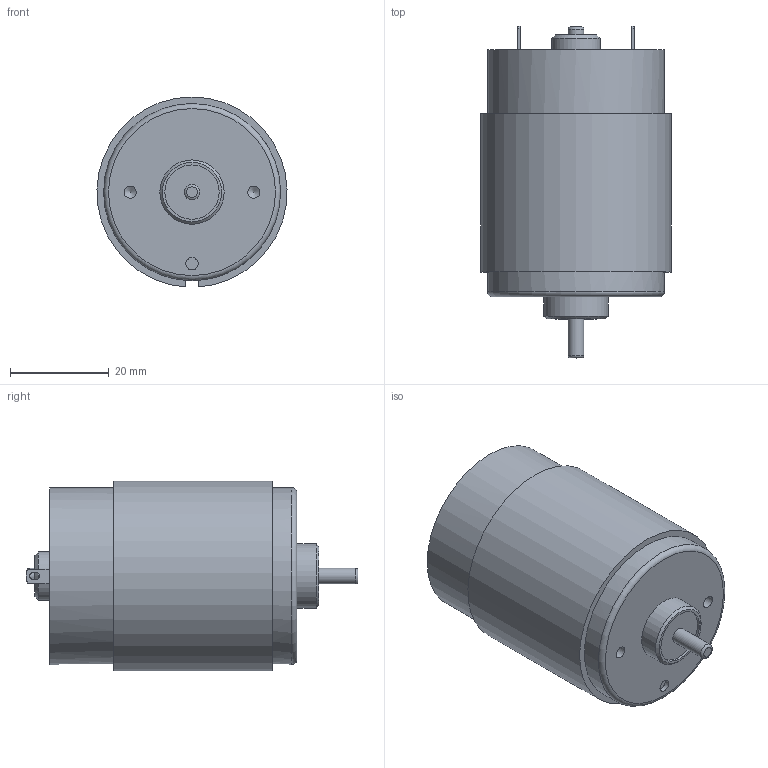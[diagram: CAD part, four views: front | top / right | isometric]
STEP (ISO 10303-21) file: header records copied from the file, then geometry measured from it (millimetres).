
FILE_DESCRIPTION(/* description */ (''),/* implementation_level */ '2;1');
FILE_NAME(/* name */ 'TP-3850.stp',/* time_stamp */ '2024-06-07T13:31:26+09:00',/* author */ ('user'),/* organization */ (''),/* preprocessor_version */ 'ST-DEVELOPER v20',/* originating_system */ 'Autodesk Inventor 2024',/* authorisation */ '');
FILE_SCHEMA (('AUTOMOTIVE_DESIGN { 1 0 10303 214 3 1 1 }'));
Length unit declared in the file: millimetre
Products named in the file (1): TP-3850K(RS-645)
Bounding box: 38.48 x 67.2 x 38.46 mm (x, y, z)
Volume: 55435 mm3; surface area: 8955.1 mm2
Topology: 1 solids, 1 shells, 84 faces, 188 edges, 124 vertices
Faces by surface type: plane 46, cylinder 25, torus 9, cone 4
Full cylindrical faces by diameter (mm): 1.5 x1, 2.459 x2, 2.5 x5, 3.17 x2, 7.4 x1, 9.8 x1, 11 x1, 13 x1, 34.8 x1, 35.8 x1
Entity records: 2473 total; most frequent: DIRECTION 437, CARTESIAN_POINT 395, ORIENTED_EDGE 372, EDGE_CURVE 186, AXIS2_PLACEMENT_3D 166, VERTEX_POINT 124, EDGE_LOOP 108, LINE 105
